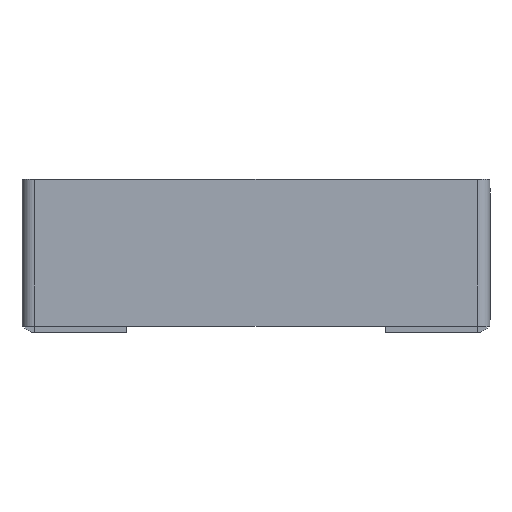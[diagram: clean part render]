
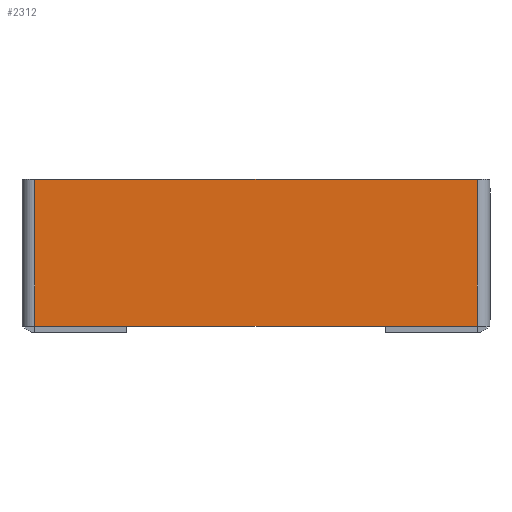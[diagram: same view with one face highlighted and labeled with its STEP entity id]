
A CAD part, front view. The second image highlights one B-rep face of the part: STEP entity #2312.
In plain terms, the highlighted planar face has unit normal (0, -1, 0).
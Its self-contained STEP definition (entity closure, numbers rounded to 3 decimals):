
#989 = EDGE_CURVE ( 'NONE', #3237, #2238, #4842, .T. ) ;
#1260 = EDGE_CURVE ( 'NONE', #3237, #2339, #9376, .T. ) ;
#1695 = CARTESIAN_POINT ( 'NONE',  ( -90., -2.5, -58. ) ) ;
#2216 = DIRECTION ( 'NONE',  ( 0., 0., 1. ) ) ;
#2235 = CARTESIAN_POINT ( 'NONE',  ( 0., -2.5, 0. ) ) ;
#2238 = VERTEX_POINT ( 'NONE', #6528 ) ;
#2312 = ADVANCED_FACE ( 'NONE', ( #2435 ), #5211, .F. ) ;
#2339 = VERTEX_POINT ( 'NONE', #9631 ) ;
#2431 = VECTOR ( 'NONE', #8105, 1000. ) ;
#2435 = FACE_OUTER_BOUND ( 'NONE', #8996, .T. ) ;
#2455 = CARTESIAN_POINT ( 'NONE',  ( -90., -2.5, 0. ) ) ;
#2462 = DIRECTION ( 'NONE',  ( -1., 0., 0. ) ) ;
#2945 = CARTESIAN_POINT ( 'NONE',  ( -87.5, -2.5, 0. ) ) ;
#3085 = VERTEX_POINT ( 'NONE', #5871 ) ;
#3237 = VERTEX_POINT ( 'NONE', #6425 ) ;
#3590 = LINE ( 'NONE', #8053, #2431 ) ;
#3670 = VECTOR ( 'NONE', #7656, 1000. ) ;
#3756 = EDGE_CURVE ( 'NONE', #3085, #2339, #9278, .T. ) ;
#4716 = VECTOR ( 'NONE', #8099, 1000. ) ;
#4842 = LINE ( 'NONE', #2455, #3670 ) ;
#4948 = ORIENTED_EDGE ( 'NONE', *, *, #8309, .T. ) ;
#5211 = PLANE ( 'NONE',  #8583 ) ;
#5871 = CARTESIAN_POINT ( 'NONE',  ( 87.5, -2.5, -58. ) ) ;
#6425 = CARTESIAN_POINT ( 'NONE',  ( -87.5, -2.5, 0. ) ) ;
#6528 = CARTESIAN_POINT ( 'NONE',  ( 87.5, -2.5, 0. ) ) ;
#6971 = VECTOR ( 'NONE', #2462, 1000. ) ;
#7382 = DIRECTION ( 'NONE',  ( 0., 1., 0. ) ) ;
#7656 = DIRECTION ( 'NONE',  ( 1., 0., 0. ) ) ;
#8053 = CARTESIAN_POINT ( 'NONE',  ( 87.5, -2.5, -58. ) ) ;
#8099 = DIRECTION ( 'NONE',  ( 0., 0., -1. ) ) ;
#8105 = DIRECTION ( 'NONE',  ( 0., 0., 1. ) ) ;
#8248 = ORIENTED_EDGE ( 'NONE', *, *, #989, .F. ) ;
#8309 = EDGE_CURVE ( 'NONE', #3085, #2238, #3590, .T. ) ;
#8583 = AXIS2_PLACEMENT_3D ( 'NONE', #2235, #7382, #2216 ) ;
#8776 = ORIENTED_EDGE ( 'NONE', *, *, #3756, .F. ) ;
#8996 = EDGE_LOOP ( 'NONE', ( #9254, #8776, #4948, #8248 ) ) ;
#9254 = ORIENTED_EDGE ( 'NONE', *, *, #1260, .T. ) ;
#9278 = LINE ( 'NONE', #1695, #6971 ) ;
#9376 = LINE ( 'NONE', #2945, #4716 ) ;
#9631 = CARTESIAN_POINT ( 'NONE',  ( -87.5, -2.5, -58. ) ) ;
